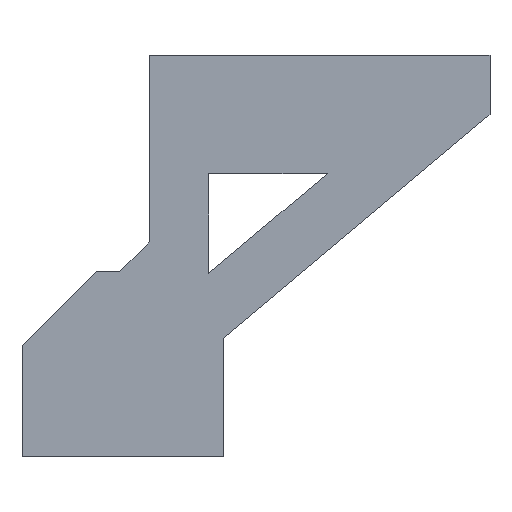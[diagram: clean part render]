
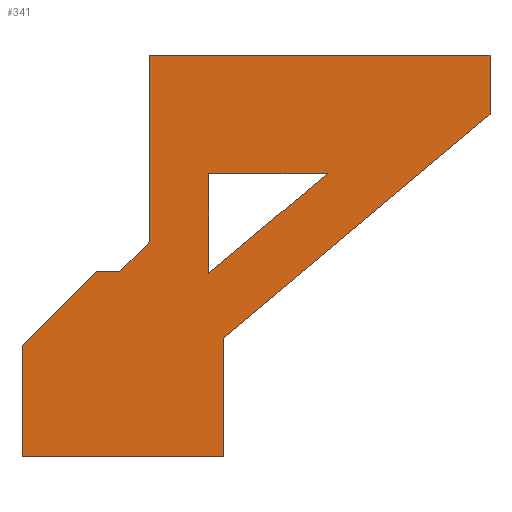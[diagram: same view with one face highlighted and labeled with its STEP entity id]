
A CAD part, front view. The second image highlights one B-rep face of the part: STEP entity #341.
In plain terms, the highlighted planar face has unit normal (0, -1, 0).
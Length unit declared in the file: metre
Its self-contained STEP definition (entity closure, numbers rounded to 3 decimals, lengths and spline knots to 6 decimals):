
#21=ORIENTED_EDGE('',*,*,#111,.F.);
#22=ORIENTED_EDGE('',*,*,#112,.T.);
#23=ORIENTED_EDGE('',*,*,#113,.T.);
#24=ORIENTED_EDGE('',*,*,#114,.F.);
#25=ORIENTED_EDGE('',*,*,#115,.F.);
#26=ORIENTED_EDGE('',*,*,#116,.F.);
#27=ORIENTED_EDGE('',*,*,#117,.T.);
#28=ORIENTED_EDGE('',*,*,#118,.T.);
#29=ORIENTED_EDGE('',*,*,#119,.F.);
#30=ORIENTED_EDGE('',*,*,#120,.T.);
#31=ORIENTED_EDGE('',*,*,#121,.T.);
#32=ORIENTED_EDGE('',*,*,#122,.T.);
#33=ORIENTED_EDGE('',*,*,#123,.T.);
#111=EDGE_CURVE('',#156,#157,#188,.T.);
#112=EDGE_CURVE('',#156,#158,#189,.T.);
#113=EDGE_CURVE('',#158,#159,#190,.T.);
#114=EDGE_CURVE('',#160,#159,#191,.T.);
#115=EDGE_CURVE('',#161,#160,#192,.T.);
#116=EDGE_CURVE('',#162,#161,#193,.T.);
#117=EDGE_CURVE('',#162,#163,#194,.T.);
#118=EDGE_CURVE('',#163,#164,#195,.T.);
#119=EDGE_CURVE('',#165,#164,#196,.T.);
#120=EDGE_CURVE('',#165,#157,#197,.T.);
#121=EDGE_CURVE('',#166,#167,#198,.T.);
#122=EDGE_CURVE('',#167,#168,#199,.T.);
#123=EDGE_CURVE('',#168,#166,#200,.T.);
#156=VERTEX_POINT('',#496);
#157=VERTEX_POINT('',#497);
#158=VERTEX_POINT('',#499);
#159=VERTEX_POINT('',#501);
#160=VERTEX_POINT('',#503);
#161=VERTEX_POINT('',#505);
#162=VERTEX_POINT('',#507);
#163=VERTEX_POINT('',#509);
#164=VERTEX_POINT('',#511);
#165=VERTEX_POINT('',#513);
#166=VERTEX_POINT('',#516);
#167=VERTEX_POINT('',#517);
#168=VERTEX_POINT('',#519);
#188=LINE('',#495,#227);
#189=LINE('',#498,#228);
#190=LINE('',#500,#229);
#191=LINE('',#502,#230);
#192=LINE('',#504,#231);
#193=LINE('',#506,#232);
#194=LINE('',#508,#233);
#195=LINE('',#510,#234);
#196=LINE('',#512,#235);
#197=LINE('',#514,#236);
#198=LINE('',#515,#237);
#199=LINE('',#518,#238);
#200=LINE('',#520,#239);
#227=VECTOR('',#404,1.);
#228=VECTOR('',#405,1.);
#229=VECTOR('',#406,1.);
#230=VECTOR('',#407,1.);
#231=VECTOR('',#408,1.);
#232=VECTOR('',#409,1.);
#233=VECTOR('',#410,1.);
#234=VECTOR('',#411,1.);
#235=VECTOR('',#412,1.);
#236=VECTOR('',#413,1.);
#237=VECTOR('',#414,1.);
#238=VECTOR('',#415,1.);
#239=VECTOR('',#416,1.);
#266=EDGE_LOOP('',(#21,#22,#23,#24,#25,#26,#27,#28,#29,#30));
#267=EDGE_LOOP('',(#31,#32,#33));
#295=FACE_BOUND('',#266,.T.);
#296=FACE_BOUND('',#267,.T.);
#324=PLANE('',#374);
#341=ADVANCED_FACE('',(#295,#296),#324,.F.);
#374=AXIS2_PLACEMENT_3D('',#494,#402,#403);
#402=DIRECTION('',(0.,1.,0.));
#403=DIRECTION('',(0.,0.,1.));
#404=DIRECTION('',(1.,0.,0.));
#405=DIRECTION('',(-0.707,0.,-0.707));
#406=DIRECTION('',(0.,0.,-1.));
#407=DIRECTION('',(-1.,0.,0.));
#408=DIRECTION('',(0.,0.,-1.));
#409=DIRECTION('',(-0.766,0.,-0.643));
#410=DIRECTION('',(0.,0.,1.));
#411=DIRECTION('',(-1.,0.,0.));
#412=DIRECTION('',(0.,0.,1.));
#413=DIRECTION('',(-0.707,0.,-0.707));
#414=DIRECTION('',(1.,0.,0.));
#415=DIRECTION('',(-0.766,0.,-0.643));
#416=DIRECTION('',(0.,0.,1.));
#494=CARTESIAN_POINT('',(0.0146,0.076,-0.004));
#495=CARTESIAN_POINT('',(0.003998,0.076,-0.014604));
#496=CARTESIAN_POINT('',(0.009,0.076,-0.014604));
#497=CARTESIAN_POINT('',(0.0106,0.076,-0.014604));
#498=CARTESIAN_POINT('',(0.004,0.076,-0.019604));
#499=CARTESIAN_POINT('',(0.004,0.076,-0.019604));
#500=CARTESIAN_POINT('',(0.004,0.076,-0.020854));
#501=CARTESIAN_POINT('',(0.004,0.076,-0.027104));
#502=CARTESIAN_POINT('',(0.0151,0.076,-0.027104));
#503=CARTESIAN_POINT('',(0.0176,0.076,-0.027104));
#504=CARTESIAN_POINT('',(0.0176,0.076,-0.023104));
#505=CARTESIAN_POINT('',(0.0176,0.076,-0.019104));
#506=CARTESIAN_POINT('',(0.0266,0.076,-0.011552));
#507=CARTESIAN_POINT('',(0.0356,0.076,-0.004));
#508=CARTESIAN_POINT('',(0.0356,0.076,-0.004));
#509=CARTESIAN_POINT('',(0.0356,0.076,0.));
#510=CARTESIAN_POINT('',(0.0146,0.076,0.));
#511=CARTESIAN_POINT('',(0.0126,0.076,0.));
#512=CARTESIAN_POINT('',(0.0126,0.076,-0.004));
#513=CARTESIAN_POINT('',(0.0126,0.076,-0.012604));
#514=CARTESIAN_POINT('',(0.017902,0.076,-0.007302));
#515=CARTESIAN_POINT('',(0.020605,0.076,-0.008));
#516=CARTESIAN_POINT('',(0.0166,0.076,-0.008));
#517=CARTESIAN_POINT('',(0.02461,0.076,-0.008));
#518=CARTESIAN_POINT('',(0.020605,0.076,-0.011361));
#519=CARTESIAN_POINT('',(0.0166,0.076,-0.014721));
#520=CARTESIAN_POINT('',(0.0166,0.076,-0.011361));
